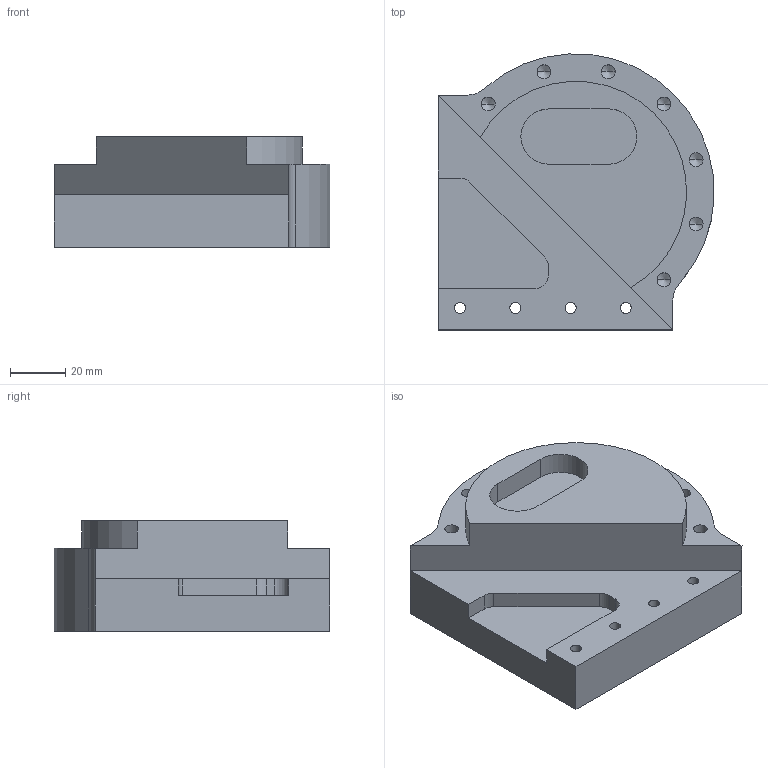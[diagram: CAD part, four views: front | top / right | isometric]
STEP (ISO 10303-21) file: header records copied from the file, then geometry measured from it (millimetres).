
FILE_DESCRIPTION(('STEP AP214'),'1');
FILE_NAME('MU Solid Sample 2.STEP','2026-08-04T09:46:03',(' '),('GO2cam international'),'Spatial InterOp 3D','GO2cam V6.13',' ');
FILE_SCHEMA(('AUTOMOTIVE_DESIGN { 1 0 10303 214 1 1 1 1 }'));
Length unit declared in the file: millimetre
Products named in the file (1): BREP1
Bounding box: 99.93 x 99.93 x 40 mm (x, y, z)
Volume: 238289.4 mm3; surface area: 34072.1 mm2
Topology: 1 solids, 1 shells, 54 faces, 145 edges, 87 vertices
Faces by surface type: cylinder 23, plane 17, cone 14
Full cylindrical faces by diameter (mm): 4 x1, 5 x7
Entity records: 2204 total; most frequent: DIRECTION 280, CARTESIAN_POINT 276, ORIENTED_EDGE 244, STYLED_ITEM 123, PRESENTATION_STYLE_ASSIGNMENT 123, COLOUR_RGB 123, EDGE_CURVE 122, CURVE_STYLE 122
